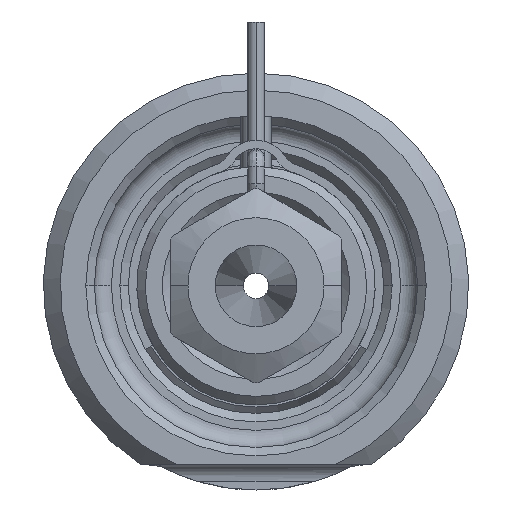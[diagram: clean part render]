
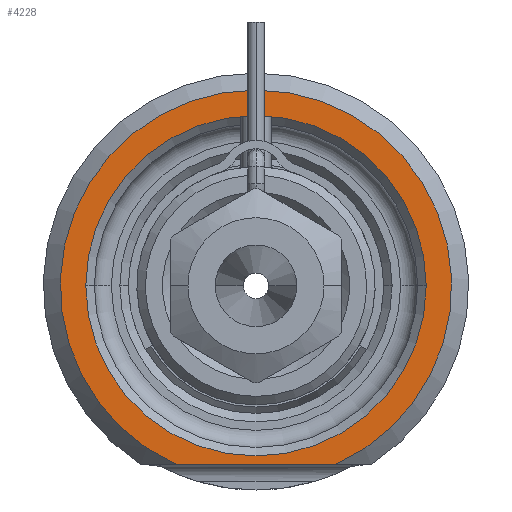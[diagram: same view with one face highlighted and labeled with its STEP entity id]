
A CAD part, front view. The second image highlights one B-rep face of the part: STEP entity #4228.
In plain terms, the highlighted planar face has unit normal (0, -1, 0).
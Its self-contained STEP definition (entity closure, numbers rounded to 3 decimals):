
#1350=CARTESIAN_POINT('',(0.,0.,0.));
#1351=DIRECTION('',(0.,-1.,0.));
#1352=DIRECTION('',(0.408,0.,-0.913));
#1353=AXIS2_PLACEMENT_3D('',#1350,#1351,#1352);
#1374=DIRECTION('',(1.,0.,0.));
#1375=VECTOR('',#1374,9.381);
#1376=CARTESIAN_POINT('',(-4.69,0.,-10.5));
#1377=LINE('',#1376,#1375);
#1378=CARTESIAN_POINT('',(0.,0.,0.));
#1379=DIRECTION('',(0.,1.,0.));
#1380=DIRECTION('',(-1.,0.,0.));
#1381=AXIS2_PLACEMENT_3D('',#1378,#1379,#1380);
#1383=CARTESIAN_POINT('',(0.,0.,0.));
#1384=DIRECTION('',(0.,1.,0.));
#1385=DIRECTION('',(1.,0.,0.));
#1386=AXIS2_PLACEMENT_3D('',#1383,#1384,#1385);
#2318=CARTESIAN_POINT('',(-10.,0.,0.));
#2319=CARTESIAN_POINT('',(10.,0.,0.));
#2320=VERTEX_POINT('',#2318);
#2321=VERTEX_POINT('',#2319);
#2362=CARTESIAN_POINT('',(-4.69,0.,-10.5));
#2363=CARTESIAN_POINT('',(4.69,0.,-10.5));
#2364=VERTEX_POINT('',#2362);
#2365=VERTEX_POINT('',#2363);
#4213=CARTESIAN_POINT('',(0.,0.,0.));
#4214=DIRECTION('',(0.,-1.,0.));
#4215=DIRECTION('',(1.,0.,0.));
#4216=AXIS2_PLACEMENT_3D('',#4213,#4214,#4215);
#4217=PLANE('',#4216);
#4218=ORIENTED_EDGE('',*,*,#4148,.F.);
#4219=ORIENTED_EDGE('',*,*,#4205,.F.);
#4220=EDGE_LOOP('',(#4218,#4219));
#4221=FACE_OUTER_BOUND('',#4220,.F.);
#4223=ORIENTED_EDGE('',*,*,#4222,.F.);
#4225=ORIENTED_EDGE('',*,*,#4224,.F.);
#4226=EDGE_LOOP('',(#4223,#4225));
#4227=FACE_BOUND('',#4226,.F.);
#4228=ADVANCED_FACE('',(#4221,#4227),#4217,.T.);
#1354=CIRCLE('',#1353,11.5);
#1382=CIRCLE('',#1381,10.);
#1387=CIRCLE('',#1386,10.);
#4148=EDGE_CURVE('',#2364,#2365,#1377,.T.);
#4205=EDGE_CURVE('',#2365,#2364,#1354,.T.);
#4222=EDGE_CURVE('',#2320,#2321,#1382,.T.);
#4224=EDGE_CURVE('',#2321,#2320,#1387,.T.);
